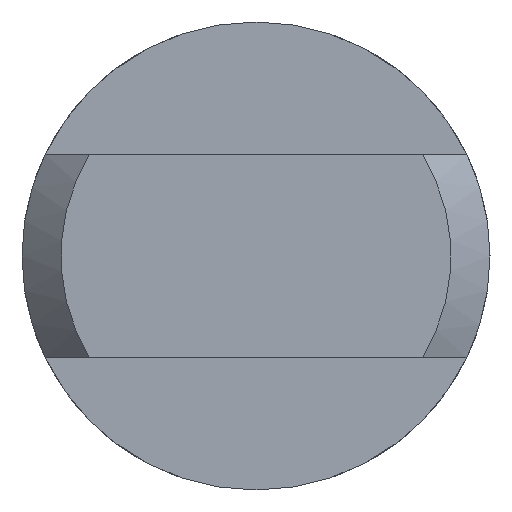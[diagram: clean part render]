
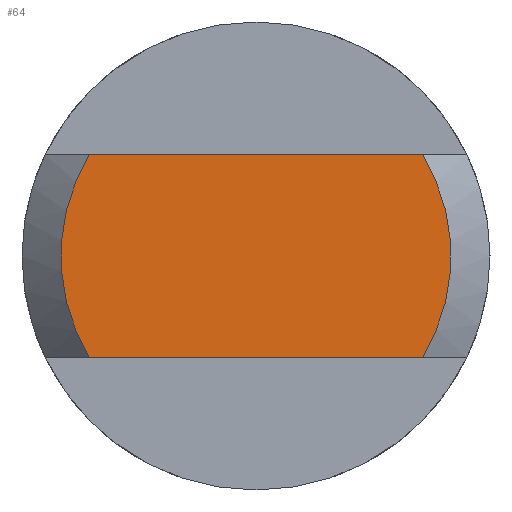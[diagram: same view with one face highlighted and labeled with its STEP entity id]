
A CAD part, left-side view. The second image highlights one B-rep face of the part: STEP entity #64.
In plain terms, the highlighted planar face has unit normal (-1, 0, 0).
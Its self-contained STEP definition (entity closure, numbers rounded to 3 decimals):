
#3 = CIRCLE ( 'NONE', #430, 2.5 ) ;
#4 = VERTEX_POINT ( 'NONE', #680 ) ;
#9 = PLANE ( 'NONE',  #63 ) ;
#63 = AXIS2_PLACEMENT_3D ( 'NONE', #912, #922, #88 ) ;
#64 = ADVANCED_FACE ( 'NONE', ( #153 ), #9, .F. ) ;
#88 = DIRECTION ( 'NONE',  ( 0., 0., -1. ) ) ;
#120 = CARTESIAN_POINT ( 'NONE',  ( -18., 0., 0. ) ) ;
#153 = FACE_OUTER_BOUND ( 'NONE', #584, .T. ) ;
#154 = ORIENTED_EDGE ( 'NONE', *, *, #730, .T. ) ;
#234 = DIRECTION ( 'NONE',  ( 0., -1., 0. ) ) ;
#289 = CARTESIAN_POINT ( 'NONE',  ( -18., 2.135, -1.3 ) ) ;
#297 = DIRECTION ( 'NONE',  ( -1., 0., 0. ) ) ;
#319 = LINE ( 'NONE', #918, #722 ) ;
#395 = VECTOR ( 'NONE', #520, 1000. ) ;
#424 = DIRECTION ( 'NONE',  ( -1., 0., 0. ) ) ;
#430 = AXIS2_PLACEMENT_3D ( 'NONE', #751, #297, #755 ) ;
#483 = CARTESIAN_POINT ( 'NONE',  ( -18., -2.135, -1.3 ) ) ;
#497 = VERTEX_POINT ( 'NONE', #483 ) ;
#504 = CARTESIAN_POINT ( 'NONE',  ( -18., 0., -1.3 ) ) ;
#520 = DIRECTION ( 'NONE',  ( 0., 1., 0. ) ) ;
#538 = ORIENTED_EDGE ( 'NONE', *, *, #642, .F. ) ;
#564 = EDGE_CURVE ( 'NONE', #828, #653, #605, .T. ) ;
#584 = EDGE_LOOP ( 'NONE', ( #538, #154, #815, #616 ) ) ;
#585 = LINE ( 'NONE', #504, #395 ) ;
#605 = CIRCLE ( 'NONE', #818, 2.5 ) ;
#616 = ORIENTED_EDGE ( 'NONE', *, *, #564, .T. ) ;
#642 = EDGE_CURVE ( 'NONE', #497, #653, #585, .T. ) ;
#653 = VERTEX_POINT ( 'NONE', #289 ) ;
#680 = CARTESIAN_POINT ( 'NONE',  ( -18., -2.135, 1.3 ) ) ;
#722 = VECTOR ( 'NONE', #234, 1000. ) ;
#729 = DIRECTION ( 'NONE',  ( 0., 0., -1. ) ) ;
#730 = EDGE_CURVE ( 'NONE', #497, #4, #3, .T. ) ;
#751 = CARTESIAN_POINT ( 'NONE',  ( -18., 0., 0. ) ) ;
#755 = DIRECTION ( 'NONE',  ( 0., 0., -1. ) ) ;
#776 = CARTESIAN_POINT ( 'NONE',  ( -18., 2.135, 1.3 ) ) ;
#815 = ORIENTED_EDGE ( 'NONE', *, *, #874, .F. ) ;
#818 = AXIS2_PLACEMENT_3D ( 'NONE', #120, #424, #729 ) ;
#828 = VERTEX_POINT ( 'NONE', #776 ) ;
#874 = EDGE_CURVE ( 'NONE', #828, #4, #319, .T. ) ;
#912 = CARTESIAN_POINT ( 'NONE',  ( -18., 0., 0. ) ) ;
#918 = CARTESIAN_POINT ( 'NONE',  ( -18., 0., 1.3 ) ) ;
#922 = DIRECTION ( 'NONE',  ( 1., 0., 0. ) ) ;
